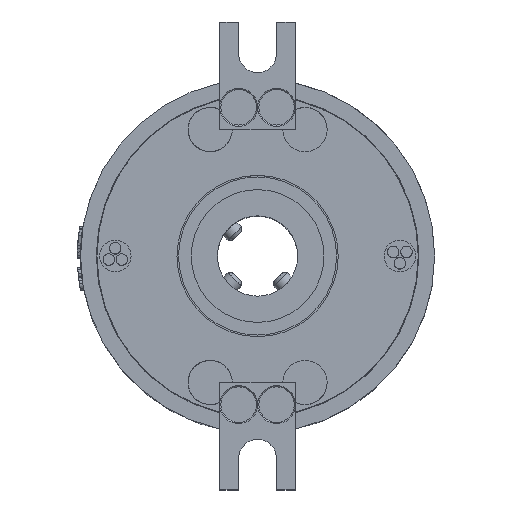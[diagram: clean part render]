
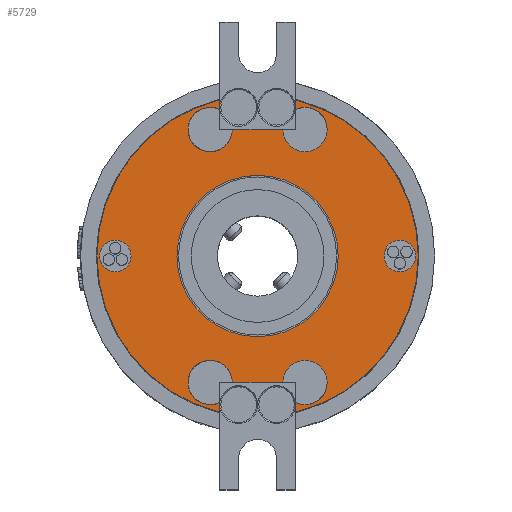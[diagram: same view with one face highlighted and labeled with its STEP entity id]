
A CAD part, top view. The second image highlights one B-rep face of the part: STEP entity #5729.
In plain terms, the highlighted planar face has unit normal (0, 0, 1).
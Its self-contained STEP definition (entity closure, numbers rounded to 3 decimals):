
#4132=LINE('',#35237,#4868);
#4133=LINE('',#35239,#4869);
#4135=LINE('',#35244,#4871);
#4137=LINE('',#35249,#4873);
#4138=LINE('',#35254,#4874);
#4140=LINE('',#35259,#4876);
#4868=VECTOR('',#19118,1.);
#4869=VECTOR('',#19121,1.);
#4871=VECTOR('',#19129,1.);
#4873=VECTOR('',#19137,1.);
#4874=VECTOR('',#19146,1.);
#4876=VECTOR('',#19154,1.);
#5729=ADVANCED_FACE('',(#6348,#6349,#6350,#6351),#6145,.T.);
#6145=PLANE('',#17220);
#6348=FACE_BOUND('',#7380,.T.);
#6349=FACE_BOUND('',#7381,.T.);
#6350=FACE_BOUND('',#7382,.T.);
#6351=FACE_BOUND('',#7383,.T.);
#7380=EDGE_LOOP('',(#11874));
#7381=EDGE_LOOP('',(#11875));
#7382=EDGE_LOOP('',(#11876,#11877,#11878,#11879,#11880,#11881,#11882,#11883,
#11884,#11885,#11886,#11887));
#7383=EDGE_LOOP('',(#11888));
#11874=ORIENTED_EDGE('',*,*,#16217,.T.);
#11875=ORIENTED_EDGE('',*,*,#16218,.T.);
#11876=ORIENTED_EDGE('',*,*,#16201,.F.);
#11877=ORIENTED_EDGE('',*,*,#16200,.F.);
#11878=ORIENTED_EDGE('',*,*,#16198,.F.);
#11879=ORIENTED_EDGE('',*,*,#16196,.T.);
#11880=ORIENTED_EDGE('',*,*,#16195,.F.);
#11881=ORIENTED_EDGE('',*,*,#16194,.F.);
#11882=ORIENTED_EDGE('',*,*,#16192,.F.);
#11883=ORIENTED_EDGE('',*,*,#16191,.T.);
#11884=ORIENTED_EDGE('',*,*,#16189,.F.);
#11885=ORIENTED_EDGE('',*,*,#16197,.T.);
#11886=ORIENTED_EDGE('',*,*,#16188,.F.);
#11887=ORIENTED_EDGE('',*,*,#16186,.F.);
#11888=ORIENTED_EDGE('',*,*,#16219,.F.);
#13824=VERTEX_POINT('',#35125);
#13825=VERTEX_POINT('',#35126);
#13830=VERTEX_POINT('',#35147);
#13832=VERTEX_POINT('',#35150);
#13835=VERTEX_POINT('',#35160);
#13836=VERTEX_POINT('',#35162);
#13838=VERTEX_POINT('',#35169);
#13839=VERTEX_POINT('',#35171);
#13843=VERTEX_POINT('',#35193);
#13845=VERTEX_POINT('',#35196);
#13846=VERTEX_POINT('',#35200);
#13848=VERTEX_POINT('',#35203);
#13871=VERTEX_POINT('',#35543);
#13872=VERTEX_POINT('',#35545);
#13873=VERTEX_POINT('',#35547);
#16186=EDGE_CURVE('',#13843,#13845,#16598,.T.);
#16188=EDGE_CURVE('',#13845,#13839,#4132,.T.);
#16189=EDGE_CURVE('',#13835,#13824,#4133,.T.);
#16191=EDGE_CURVE('',#13825,#13824,#16599,.T.);
#16192=EDGE_CURVE('',#13825,#13830,#4135,.T.);
#16194=EDGE_CURVE('',#13830,#13832,#16600,.T.);
#16195=EDGE_CURVE('',#13832,#13836,#4137,.T.);
#16196=EDGE_CURVE('',#13838,#13836,#16601,.T.);
#16197=EDGE_CURVE('',#13835,#13839,#16602,.T.);
#16198=EDGE_CURVE('',#13838,#13846,#4138,.T.);
#16200=EDGE_CURVE('',#13846,#13848,#16603,.T.);
#16201=EDGE_CURVE('',#13848,#13843,#4140,.T.);
#16217=EDGE_CURVE('',#13871,#13871,#16609,.T.);
#16218=EDGE_CURVE('',#13872,#13872,#16610,.T.);
#16219=EDGE_CURVE('',#13873,#13873,#16611,.T.);
#16598=CIRCLE('',#17187,3.5);
#16599=CIRCLE('',#17191,3.5);
#16600=CIRCLE('',#17194,3.5);
#16601=CIRCLE('',#17197,25.4);
#16602=CIRCLE('',#17198,25.4);
#16603=CIRCLE('',#17201,3.5);
#16609=CIRCLE('',#17217,2.5);
#16610=CIRCLE('',#17218,2.5);
#16611=CIRCLE('',#17219,12.75);
#17187=AXIS2_PLACEMENT_3D('',#35234,#19113,#19114);
#17191=AXIS2_PLACEMENT_3D('',#35242,#19125,#19126);
#17194=AXIS2_PLACEMENT_3D('',#35247,#19133,#19134);
#17197=AXIS2_PLACEMENT_3D('',#35251,#19140,#19141);
#17198=AXIS2_PLACEMENT_3D('',#35252,#19142,#19143);
#17201=AXIS2_PLACEMENT_3D('',#35257,#19150,#19151);
#17217=AXIS2_PLACEMENT_3D('',#35542,#19184,#19185);
#17218=AXIS2_PLACEMENT_3D('',#35544,#19186,#19187);
#17219=AXIS2_PLACEMENT_3D('',#35546,#19188,#19189);
#17220=AXIS2_PLACEMENT_3D('',#35548,#19190,#19191);
#19113=DIRECTION('',(0.,0.,1.));
#19114=DIRECTION('',(1.,0.,0.));
#19118=DIRECTION('',(0.,-1.,0.));
#19121=DIRECTION('',(0.,-1.,0.));
#19125=DIRECTION('',(0.,0.,-1.));
#19126=DIRECTION('',(1.,0.,0.));
#19129=DIRECTION('',(1.,0.,0.));
#19133=DIRECTION('',(0.,0.,1.));
#19134=DIRECTION('',(1.,0.,0.));
#19137=DIRECTION('',(0.,1.,0.));
#19140=DIRECTION('',(0.,0.,1.));
#19141=DIRECTION('',(1.,0.,0.));
#19142=DIRECTION('',(0.,0.,1.));
#19143=DIRECTION('',(1.,0.,0.));
#19146=DIRECTION('',(0.,1.,0.));
#19150=DIRECTION('',(0.,0.,1.));
#19151=DIRECTION('',(1.,0.,0.));
#19154=DIRECTION('',(-1.,0.,0.));
#19184=DIRECTION('',(0.,0.,-1.));
#19185=DIRECTION('',(1.,0.,0.));
#19186=DIRECTION('',(0.,0.,-1.));
#19187=DIRECTION('',(-1.,0.,0.));
#19188=DIRECTION('',(0.,0.,1.));
#19189=DIRECTION('',(1.,0.,0.));
#19190=DIRECTION('',(0.,0.,1.));
#19191=DIRECTION('',(1.,0.,0.));
#35125=CARTESIAN_POINT('',(-6.,23.162,46.));
#35126=CARTESIAN_POINT('',(-4.,20.,46.));
#35147=CARTESIAN_POINT('',(4.,20.,46.));
#35150=CARTESIAN_POINT('',(6.,23.162,46.));
#35160=CARTESIAN_POINT('',(-6.,24.681,46.));
#35162=CARTESIAN_POINT('',(6.,24.681,46.));
#35169=CARTESIAN_POINT('',(6.,-24.681,46.));
#35171=CARTESIAN_POINT('',(-6.,-24.681,46.));
#35193=CARTESIAN_POINT('',(-4.,-20.,46.));
#35196=CARTESIAN_POINT('',(-6.,-23.162,46.));
#35200=CARTESIAN_POINT('',(6.,-23.162,46.));
#35203=CARTESIAN_POINT('',(4.,-20.,46.));
#35234=CARTESIAN_POINT('',(-7.5,-20.,46.));
#35237=CARTESIAN_POINT('',(-6.,-20.,46.));
#35239=CARTESIAN_POINT('',(-6.,37.,46.));
#35242=CARTESIAN_POINT('',(-7.5,20.,46.));
#35244=CARTESIAN_POINT('',(0.,20.,46.));
#35247=CARTESIAN_POINT('',(7.5,20.,46.));
#35249=CARTESIAN_POINT('',(6.,20.,46.));
#35251=CARTESIAN_POINT('',(0.,0.,
46.));
#35252=CARTESIAN_POINT('',(0.,0.,
46.));
#35254=CARTESIAN_POINT('',(6.,-37.,46.));
#35257=CARTESIAN_POINT('',(7.5,-20.,46.));
#35259=CARTESIAN_POINT('',(0.,-20.,46.));
#35542=CARTESIAN_POINT('',(22.5,0.,46.));
#35543=CARTESIAN_POINT('',(25.,0.,46.));
#35544=CARTESIAN_POINT('',(-22.5,0.,46.));
#35545=CARTESIAN_POINT('',(-25.,0.,46.));
#35546=CARTESIAN_POINT('',(0.,0.,
46.));
#35547=CARTESIAN_POINT('',(12.75,0.,46.));
#35548=CARTESIAN_POINT('',(0.,0.,
46.));
